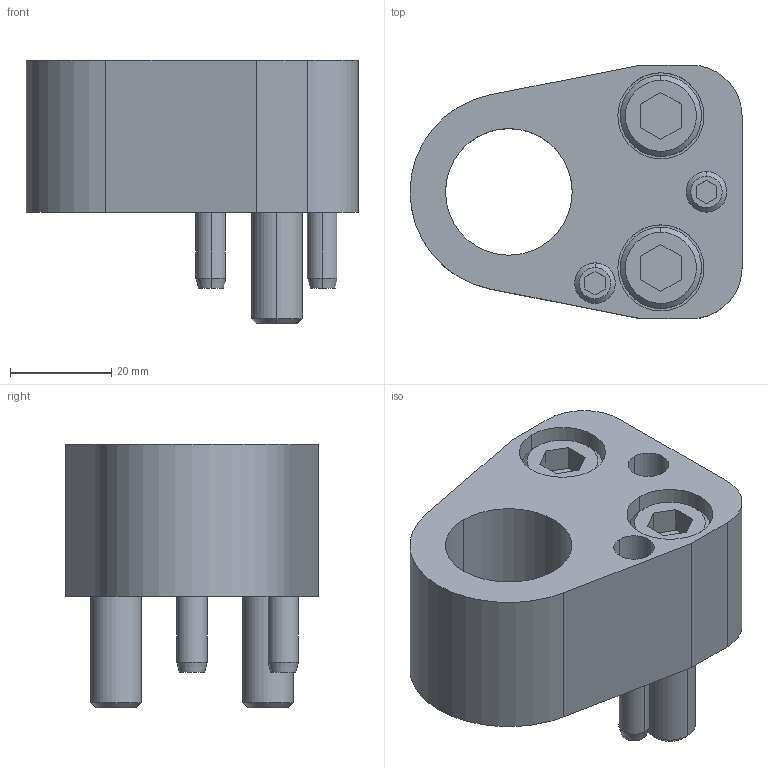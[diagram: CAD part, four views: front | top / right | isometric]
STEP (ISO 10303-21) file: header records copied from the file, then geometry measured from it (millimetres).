
FILE_DESCRIPTION(/* description */ (''),/* implementation_level */ '2;1');
FILE_NAME(/* name */ '3d_dpar25_02798_r00.stp',/* time_stamp */ '2011-01-10T14:15:54+09:00',/* author */ ('MISUMI'),/* organization */ (''),/* preprocessor_version */ 'ST-DEVELOPER v11',/* originating_system */ 'UGS - NX 5.0',/* authorisation */ '');
FILE_SCHEMA (('CONFIG_CONTROL_DESIGN'));
Length unit declared in the file: millimetre
Products named in the file (1): 3d_dpar25_02798_r00
Bounding box: 65.5 x 50 x 52 mm (x, y, z)
Volume: 66649.3 mm3; surface area: 22696.2 mm2
Topology: 7 solids, 7 shells, 135 faces, 292 edges, 186 vertices
Faces by surface type: plane 60, cylinder 49, cone 26
Entity records: 3816 total; most frequent: DIRECTION 684, CARTESIAN_POINT 662, ORIENTED_EDGE 584, EDGE_CURVE 292, AXIS2_PLACEMENT_3D 260, VERTEX_POINT 186, LINE 164, VECTOR 164
